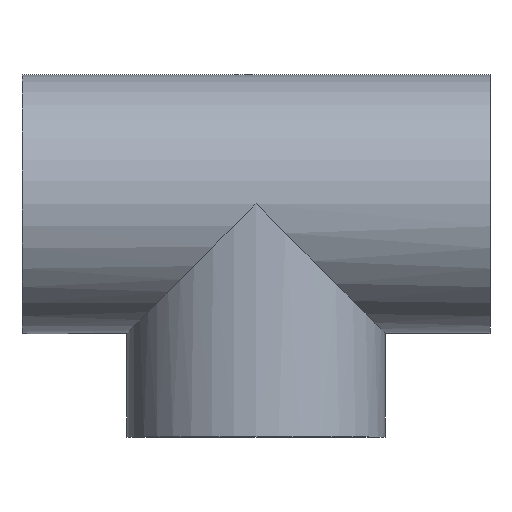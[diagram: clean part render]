
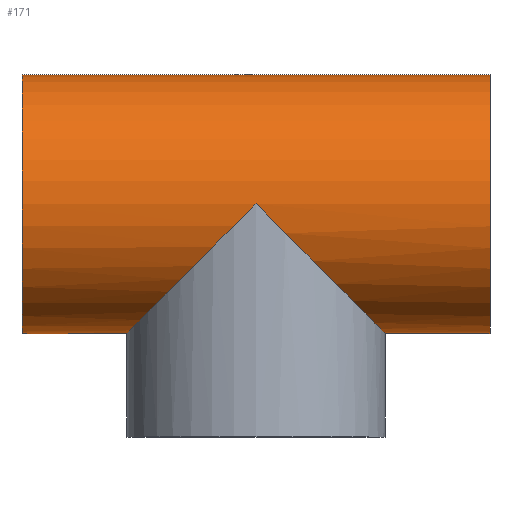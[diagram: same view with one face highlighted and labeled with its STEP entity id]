
A CAD part, top view. The second image highlights one B-rep face of the part: STEP entity #171.
In plain terms, the highlighted cylindrical face has radius 65 mm (diameter 130 mm), a full revolution.
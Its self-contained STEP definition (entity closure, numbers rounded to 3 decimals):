
#17=ELLIPSE('',#199,91.924,65.);
#18=ELLIPSE('',#200,91.924,65.);
#32=FACE_BOUND('',#68,.T.);
#33=FACE_BOUND('',#69,.T.);
#47=FACE_OUTER_BOUND('',#67,.T.);
#67=EDGE_LOOP('',(#140));
#68=EDGE_LOOP('',(#141,#142));
#69=EDGE_LOOP('',(#143));
#90=CIRCLE('',#198,65.);
#91=CIRCLE('',#201,65.);
#104=VERTEX_POINT('',#299);
#105=VERTEX_POINT('',#301);
#106=VERTEX_POINT('',#302);
#107=VERTEX_POINT('',#305);
#120=EDGE_CURVE('',#104,#104,#90,.T.);
#121=EDGE_CURVE('',#105,#106,#17,.T.);
#122=EDGE_CURVE('',#106,#105,#18,.T.);
#123=EDGE_CURVE('',#107,#107,#91,.T.);
#140=ORIENTED_EDGE('',*,*,#120,.F.);
#141=ORIENTED_EDGE('',*,*,#121,.T.);
#142=ORIENTED_EDGE('',*,*,#122,.T.);
#143=ORIENTED_EDGE('',*,*,#123,.F.);
#161=CYLINDRICAL_SURFACE('',#197,65.);
#171=ADVANCED_FACE('',(#47,#32,#33),#161,.T.);
#197=AXIS2_PLACEMENT_3D('',#298,#246,#247);
#198=AXIS2_PLACEMENT_3D('',#300,#248,#249);
#199=AXIS2_PLACEMENT_3D('',#303,#250,#251);
#200=AXIS2_PLACEMENT_3D('',#304,#252,#253);
#201=AXIS2_PLACEMENT_3D('',#306,#254,#255);
#246=DIRECTION('center_axis',(1.,0.,0.));
#247=DIRECTION('ref_axis',(0.,-1.,0.));
#248=DIRECTION('center_axis',(-1.,0.,0.));
#249=DIRECTION('ref_axis',(0.,-1.,0.));
#250=DIRECTION('center_axis',(-0.707,0.707,0.));
#251=DIRECTION('ref_axis',(-0.707,-0.707,0.));
#252=DIRECTION('center_axis',(0.707,0.707,0.));
#253=DIRECTION('ref_axis',(-0.707,0.707,0.));
#254=DIRECTION('center_axis',(1.,0.,0.));
#255=DIRECTION('ref_axis',(0.,-1.,0.));
#298=CARTESIAN_POINT('Origin',(0.,0.,0.));
#299=CARTESIAN_POINT('',(-117.5,65.,0.));
#300=CARTESIAN_POINT('Origin',(-117.5,0.,0.));
#301=CARTESIAN_POINT('',(0.,0.,-65.));
#302=CARTESIAN_POINT('',(0.,0.,65.));
#303=CARTESIAN_POINT('Origin',(0.,0.,0.));
#304=CARTESIAN_POINT('Origin',(0.,0.,0.));
#305=CARTESIAN_POINT('',(117.5,65.,0.));
#306=CARTESIAN_POINT('Origin',(117.5,0.,0.));
